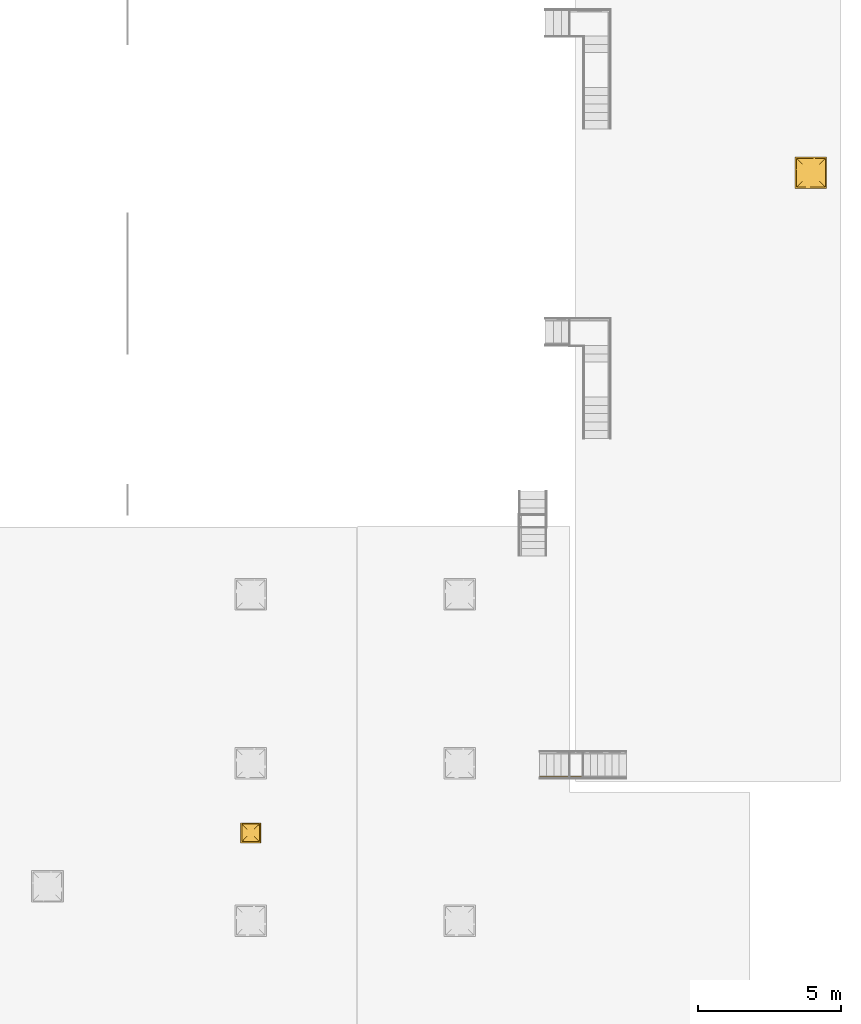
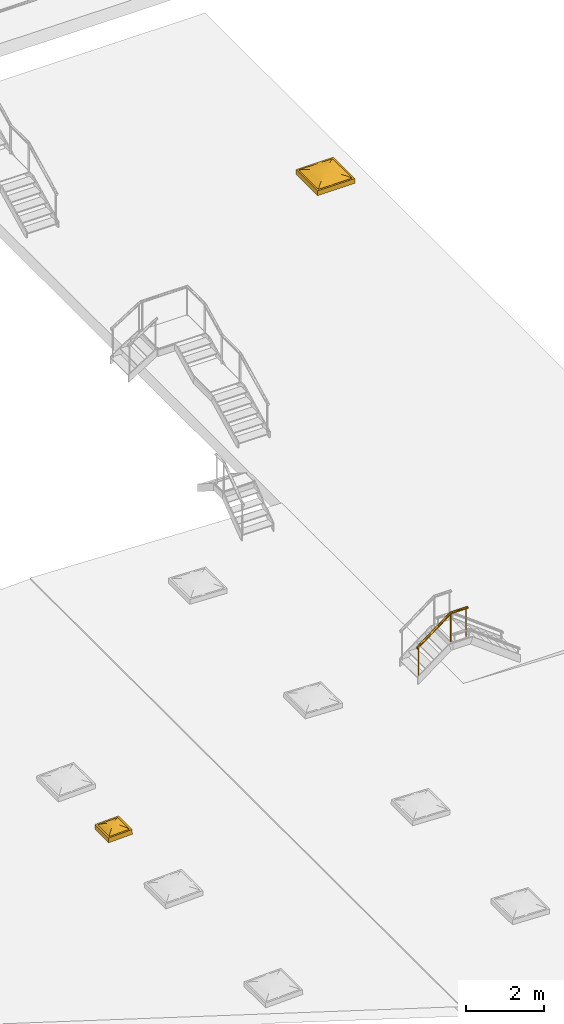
# One storey, part 6 of 15: 2 windows, 1 railing, 1 element without a shape of its own.
"""IFC2X3 building model written with IfcOpenShell, lengths in centimetres."""

from ifc_helpers import new_model, entity, si_unit, converted_unit, derived_unit, direction, frame, origin, place, context, subcontext, project, spatial, faceted_brep, source, transform, mapped, material, material_list, type_object, type_shapes, element, aggregate, save


model = new_model("IFC2X3")

# Units and contexts
model_context = context("Model", 3, precision=0.001, world=origin(), true_north=direction((6.12303176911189e-17, 1.0)))
body_context = subcontext(model_context, "Body", "Model", "MODEL_VIEW")
ifc_project = project(units=[si_unit("LENGTHUNIT", "METRE", prefix="CENTI"), si_unit("AREAUNIT", "SQUARE_METRE"), si_unit("VOLUMEUNIT", "CUBIC_METRE"), converted_unit("PLANEANGLEUNIT", "DEGREE", entity("IfcRatioMeasure", 0.0174532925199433), si_unit("PLANEANGLEUNIT", "RADIAN"), dimensions=[0, 0, 0, 0, 0, 0, 0]), si_unit("MASSUNIT", "GRAM", prefix="KILO"), si_unit("TIMEUNIT", "SECOND"), si_unit("FREQUENCYUNIT", "HERTZ"), si_unit("THERMODYNAMICTEMPERATUREUNIT", "DEGREE_CELSIUS"), derived_unit("THERMALTRANSMITTANCEUNIT", [(si_unit("MASSUNIT", "GRAM", prefix="KILO"), 1), (si_unit("THERMODYNAMICTEMPERATUREUNIT", "KELVIN"), -1), (si_unit("TIMEUNIT", "SECOND"), -3)]), derived_unit("VOLUMETRICFLOWRATEUNIT", [(si_unit("LENGTHUNIT", "METRE"), 3), (si_unit("TIMEUNIT", "SECOND"), -1)]), si_unit("ELECTRICCURRENTUNIT", "AMPERE"), si_unit("ELECTRICVOLTAGEUNIT", "VOLT"), si_unit("POWERUNIT", "WATT"), si_unit("FORCEUNIT", "NEWTON", prefix="KILO"), si_unit("ILLUMINANCEUNIT", "LUX"), si_unit("LUMINOUSFLUXUNIT", "LUMEN"), si_unit("LUMINOUSINTENSITYUNIT", "CANDELA"), derived_unit("USERDEFINED", [(si_unit("MASSUNIT", "GRAM", prefix="KILO"), -1), (si_unit("LENGTHUNIT", "METRE"), -2), (si_unit("TIMEUNIT", "SECOND"), 3), (si_unit("LUMINOUSFLUXUNIT", "LUMEN"), 1)]), derived_unit("LINEARVELOCITYUNIT", [(si_unit("LENGTHUNIT", "METRE"), 1), (si_unit("TIMEUNIT", "SECOND"), -1)]), si_unit("PRESSUREUNIT", "PASCAL"), derived_unit("USERDEFINED", [(si_unit("LENGTHUNIT", "METRE"), -2), (si_unit("MASSUNIT", "GRAM", prefix="KILO"), 1), (si_unit("TIMEUNIT", "SECOND"), -2)])], contexts=[model_context])

# Site, building, storey
site_placement = place(None, frame((8.62739174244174, -249.285249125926, 0.0)))
site = spatial("IfcSite", under=ifc_project, at=site_placement, Name="Default", CompositionType="ELEMENT")
building_placement = place(site_placement, origin())
building = spatial("IfcBuilding", under=site, at=building_placement, CompositionType="ELEMENT")
storey_placement = place(building_placement, frame((0.0, 0.0, 801.0)))
storey = spatial("IfcBuildingStorey", under=building, at=storey_placement, Name="Acrotère E3", CompositionType="ELEMENT", Elevation=801.0)

# Windows
ifc_material_1 = material(Name="Verre")
ifc_material_2 = material(Name="Métal - Aluminium")
ifc_material_list_1 = material_list([ifc_material_1, ifc_material_2])
ifc_material_list_2 = material_list([ifc_material_1, ifc_material_2])
window_style_1 = type_object("IfcWindowStyle", Name="1000mm x 1000mm", ConstructionType="NOTDEFINED", OperationType="NOTDEFINED", ParameterTakesPrecedence=False, Sizeable=False, material=ifc_material_list_2)
shared_shape_1 = source(origin(), body_context, "Body", "Brep", [
    faceted_brep([(-8.01000000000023, -25.9900000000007, 431.759999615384), (-7.99000000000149, -25.9900000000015, 431.759999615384), (2.26188191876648, -15.7381180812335, 431.354343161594), (-18.2618819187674, -15.7381180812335, 431.354343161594), (12.4498452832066, -5.55015471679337, 430.141477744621), (-28.4498452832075, -5.55015471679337, 430.141477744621), (22.5104319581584, 4.5104319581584, 428.128957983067), (-38.5104319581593, 4.5104319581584, 428.128957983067), (4.94759751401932, 24.0, 421.759999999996), (-48.3809772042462, 14.3809772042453, 425.329319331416), (32.3809772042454, 14.3809772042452, 425.329319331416), (42.0, 24.0, 421.759999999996), (-58.0, 24.0, 421.759999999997), (-58.0, 24.0, 421.193095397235), (42.0, 24.0, 421.193095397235), (-20.820830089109, 24.0, 421.193095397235), (-48.3842611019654, 14.3842611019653, 424.777786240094), (-38.5148298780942, 4.51482987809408, 427.589684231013), (22.5148298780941, 4.51482987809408, 427.589684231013), (32.3842611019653, 14.3842611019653, 424.777786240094), (12.4537057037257, -5.5462942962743, 429.611125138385), (-28.4537057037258, -5.5462942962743, 429.611125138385), (-18.2640921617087, -15.7359078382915, 430.829410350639), (2.26409216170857, -15.7359078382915, 430.829410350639), (-8.01000000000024, -25.9899999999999, 431.236886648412), (-7.98999999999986, -25.9899999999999, 431.236886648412), (-7.99000000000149, -26.0099999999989, 431.759999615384), (2.26188191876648, -36.2618819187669, 431.354343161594), (12.4498452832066, -46.4498452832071, 430.141477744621), (22.5104319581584, -56.5104319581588, 428.128957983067), (42.0, -38.9475975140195, 421.759999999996), (32.3809772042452, -66.3809772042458, 425.329319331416), (42.0, -76.0, 421.759999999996), (42.0, -76.0, 421.193095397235), (42.0, -13.1791699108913, 421.193095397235), (22.5148298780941, -56.5148298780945, 427.589684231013), (32.3842611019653, -66.3842611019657, 424.777786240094), (12.4537057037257, -46.4537057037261, 429.611125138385), (2.26409216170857, -36.264092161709, 430.829410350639), (-7.98999999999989, -26.0100000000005, 431.236886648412), (-8.00999999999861, -26.0099999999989, 431.759999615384), (-18.2618819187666, -36.2618819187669, 431.354343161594), (-28.4498452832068, -46.449845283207, 430.141477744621), (-38.5104319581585, -56.5104319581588, 428.128957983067), (-20.9475975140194, -76.0, 421.759999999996), (-48.3809772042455, -66.3809772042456, 425.329319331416), (-58.0, -76.0, 421.759999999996), (-58.0, -76.0, 421.193095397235), (4.82083008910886, -76.0, 421.193095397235), (-38.5148298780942, -56.5148298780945, 427.589684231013), (-48.3842611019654, -66.3842611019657, 424.777786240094), (-28.4537057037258, -46.4537057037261, 429.611125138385), (-18.2640921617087, -36.264092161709, 430.829410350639), (-8.01000000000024, -26.0100000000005, 431.236886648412), (-58.0, -13.052402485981, 421.759999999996), (-58.0, -38.8208300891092, 421.193095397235)], [[[0, 1, 2, 3]], [[3, 2, 4, 5]], [[4, 6, 7, 5]], [[8, 9, 7]], [[6, 10, 8]], [[10, 11, 8]], [[9, 8, 12]], [[7, 6, 8]], [[13, 12, 8, 11, 14, 15]], [[16, 15, 17]], [[18, 17, 15]], [[13, 15, 16]], [[15, 14, 19]], [[19, 18, 15]], [[18, 20, 21, 17]], [[22, 21, 20, 23]], [[24, 22, 23, 25]], [[0, 24, 25, 1]], [[1, 26, 27, 2]], [[2, 27, 28, 4]], [[28, 29, 6, 4]], [[30, 10, 6]], [[29, 31, 30]], [[31, 32, 30]], [[10, 30, 11]], [[6, 29, 30]], [[11, 30, 32, 33, 34, 14]], [[19, 34, 18]], [[35, 18, 34]], [[14, 34, 19]], [[34, 33, 36]], [[36, 35, 34]], [[35, 37, 20, 18]], [[23, 20, 37, 38]], [[25, 23, 38, 39]], [[1, 25, 39, 26]], [[26, 40, 41, 27]], [[27, 41, 42, 28]], [[42, 43, 29, 28]], [[44, 31, 29]], [[43, 45, 44]], [[45, 46, 44]], [[31, 44, 32]], [[29, 43, 44]], [[32, 44, 46, 47, 48, 33]], [[36, 48, 35]], [[49, 35, 48]], [[33, 48, 36]], [[48, 47, 50]], [[50, 49, 48]], [[49, 51, 37, 35]], [[38, 37, 51, 52]], [[39, 38, 52, 53]], [[26, 39, 53, 40]], [[40, 0, 3, 41]], [[41, 3, 5, 42]], [[5, 7, 43, 42]], [[54, 45, 43]], [[7, 9, 54]], [[9, 12, 54]], [[45, 54, 46]], [[43, 7, 54]], [[47, 46, 54, 12, 13, 55]], [[50, 55, 49]], [[17, 49, 55]], [[47, 55, 50]], [[55, 13, 16]], [[16, 17, 55]], [[17, 21, 51, 49]], [[52, 51, 21, 22]], [[53, 52, 22, 24]], [[40, 53, 24, 0]]]),
    faceted_brep([(-63.0, -81.0, 421.76), (-63.0, -81.0, 406.76), (47.0, -81.0, 406.76), (47.0, -81.0, 421.76), (-58.0, -76.0, 421.76), (42.0, -76.0, 421.76), (-58.0, -76.0, 406.76), (42.0, -76.0, 406.76), (47.0, 29.0, 406.76), (47.0, 29.0, 421.76), (42.0, 24.0, 421.76), (42.0, 24.0, 406.76), (-63.0, 29.0, 406.76), (-63.0, 29.0, 421.76), (-58.0, 24.0, 421.76), (-58.0, 24.0, 406.76)], [[[0, 1, 2, 3]], [[4, 0, 3, 5]], [[6, 4, 5, 7]], [[1, 6, 7, 2]], [[3, 2, 8, 9]], [[5, 3, 9, 10]], [[7, 5, 10, 11]], [[2, 7, 11, 8]], [[9, 8, 12, 13]], [[10, 9, 13, 14]], [[11, 10, 14, 15]], [[8, 11, 15, 12]], [[13, 12, 1, 0]], [[14, 13, 0, 4]], [[15, 14, 4, 6]], [[12, 15, 6, 1]]]),
])
type_shapes(window_style_1, [shared_shape_1])
window_1_placement = place(building_placement, frame((3883.90482776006, 4806.48020813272, 317.24)))
element("IfcWindow", 1, at=window_1_placement, inside=storey, type_object=window_style_1, material=ifc_material_list_1, Name="Skydome:1000mm x 1000mm", ObjectType="1000mm x 1000mm", OverallHeight=1062.58505615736, OverallWidth=124.715041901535, context=body_context, shape_type="MappedRepresentation", body=[
    mapped(shared_shape_1, transform((0.0, 0.0, 0.0), scale=1.0)),
])
ifc_material_list_3 = material_list([ifc_material_1, ifc_material_2])
ifc_material_list_4 = material_list([ifc_material_1, ifc_material_2])
window_style_2 = type_object("IfcWindowStyle", Name="600mm x 600mm", ConstructionType="NOTDEFINED", OperationType="NOTDEFINED", ParameterTakesPrecedence=False, Sizeable=False, material=ifc_material_list_4)
shared_shape_2 = source(origin(), body_context, "Body", "Brep", [
    faceted_brep([(-8.01000000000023, -25.9900000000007, 410.759999), (-7.99000000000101, -25.9900000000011, 410.759999), (-1.57480510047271, -19.5748051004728, 410.345450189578), (-14.4251948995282, -19.5748051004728, 410.345450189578), (4.73417727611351, -13.2658227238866, 409.111222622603), (-20.7341772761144, -13.2658227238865, 409.111222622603), (10.8326556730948, -7.16734432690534, 407.07771885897), (-26.8326556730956, -7.16734432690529, 407.07771885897), (16.6198183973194, -1.38018160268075, 404.278553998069), (-32.6198183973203, -1.38018160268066, 404.278553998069), (22.0, 4.0, 400.759999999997), (-38.0, 4.0, 400.759999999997), (-38.0, 4.0, 400.193095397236), (22.0, 4.0, 400.193095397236), (-32.6335686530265, -1.36643134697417, 403.750188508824), (16.6335686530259, -1.36643134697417, 403.750188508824), (-26.8512060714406, -7.14879392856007, 406.581403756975), (10.85120607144, -7.14879392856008, 406.581403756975), (4.75054590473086, -13.2494540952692, 408.638936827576), (-20.7505459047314, -13.2494540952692, 408.638936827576), (-14.434596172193, -19.5654038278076, 409.888046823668), (-1.56540382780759, -19.5654038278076, 409.888046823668), (-8.01000000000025, -25.9900000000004, 410.307642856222), (-7.99000000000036, -25.9900000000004, 410.307642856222), (-7.99000000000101, -26.0099999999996, 410.759999), (-1.57480510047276, -32.4251948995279, 410.345450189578), (4.73417727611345, -38.7341772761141, 409.111222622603), (10.8326556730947, -44.8326556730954, 407.07771885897), (16.6198183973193, -50.61981839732, 404.278553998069), (22.0, -56.0, 400.759999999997), (22.0, -56.0, 400.193095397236), (16.6335686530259, -50.6335686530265, 403.750188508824), (10.85120607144, -44.8512060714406, 406.581403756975), (4.75054590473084, -38.7505459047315, 408.638936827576), (-1.5654038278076, -32.4345961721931, 409.888046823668), (-7.99000000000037, -26.0100000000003, 410.307642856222), (-8.00999999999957, -26.0099999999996, 410.759999), (-14.4251948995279, -32.4251948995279, 410.345450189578), (-20.7341772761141, -38.7341772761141, 409.111222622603), (-26.8326556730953, -44.8326556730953, 407.07771885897), (-32.61981839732, -50.61981839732, 404.278553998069), (-38.0, -56.0, 400.759999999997), (-38.0, -56.0, 400.193095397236), (-32.6335686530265, -50.6335686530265, 403.750188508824), (-26.8512060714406, -44.8512060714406, 406.581403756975), (-20.7505459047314, -38.7505459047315, 408.638936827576), (-14.434596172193, -32.4345961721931, 409.888046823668), (-8.01000000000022, -26.0100000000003, 410.307642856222)], [[[0, 1, 2, 3]], [[3, 2, 4, 5]], [[4, 6, 7, 5]], [[7, 6, 8, 9]], [[9, 8, 10, 11]], [[12, 11, 10, 13]], [[14, 12, 13, 15]], [[16, 14, 15, 17]], [[17, 18, 19, 16]], [[20, 19, 18, 21]], [[22, 20, 21, 23]], [[0, 22, 23, 1]], [[1, 24, 25, 2]], [[2, 25, 26, 4]], [[26, 27, 6, 4]], [[6, 27, 28, 8]], [[8, 28, 29, 10]], [[13, 10, 29, 30]], [[15, 13, 30, 31]], [[17, 15, 31, 32]], [[32, 33, 18, 17]], [[21, 18, 33, 34]], [[23, 21, 34, 35]], [[1, 23, 35, 24]], [[24, 36, 37, 25]], [[25, 37, 38, 26]], [[38, 39, 27, 26]], [[27, 39, 40, 28]], [[28, 40, 41, 29]], [[30, 29, 41, 42]], [[31, 30, 42, 43]], [[32, 31, 43, 44]], [[44, 45, 33, 32]], [[34, 33, 45, 46]], [[35, 34, 46, 47]], [[24, 35, 47, 36]], [[36, 0, 3, 37]], [[37, 3, 5, 38]], [[5, 7, 39, 38]], [[39, 7, 9, 40]], [[40, 9, 11, 41]], [[42, 41, 11, 12]], [[43, 42, 12, 14]], [[44, 43, 14, 16]], [[16, 19, 45, 44]], [[46, 45, 19, 20]], [[47, 46, 20, 22]], [[36, 47, 22, 0]]]),
    faceted_brep([(-43.0, -61.0, 400.76), (-43.0, -61.0, 385.76), (27.0, -61.0, 385.76), (27.0, -61.0, 400.76), (-38.0, -56.0, 400.76), (22.0, -56.0, 400.76), (-38.0, -56.0, 385.76), (22.0, -56.0, 385.76), (27.0, 9.0, 385.76), (27.0, 9.0, 400.76), (22.0, 4.0, 400.76), (22.0, 4.0, 385.76), (-43.0, 9.0, 385.76), (-43.0, 9.0, 400.76), (-38.0, 4.0, 400.76), (-38.0, 4.0, 385.76)], [[[0, 1, 2, 3]], [[4, 0, 3, 5]], [[6, 4, 5, 7]], [[1, 6, 7, 2]], [[3, 2, 8, 9]], [[5, 3, 9, 10]], [[7, 5, 10, 11]], [[2, 7, 11, 8]], [[9, 8, 12, 13]], [[10, 9, 13, 14]], [[11, 10, 14, 15]], [[8, 11, 15, 12]], [[13, 12, 1, 0]], [[14, 13, 0, 4]], [[15, 14, 4, 6]], [[12, 15, 6, 1]]]),
])
type_shapes(window_style_2, [shared_shape_2])
window_2_placement = place(storey_placement, frame((1940.85277218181, 2501.35806445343, -418.08978499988), z_axis=(-0.0348994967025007, 0.0, 0.999390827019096), x_axis=(0.999390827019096, 0.0, 0.0348994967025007)))
element("IfcWindow", 2, at=window_2_placement, inside=storey, type_object=window_style_2, material=ifc_material_list_3, Name="Skydome:600mm x 600mm", ObjectType="600mm x 600mm", OverallHeight=1062.58505615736, OverallWidth=104.715041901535, context=body_context, shape_type="MappedRepresentation", body=[
    mapped(shared_shape_2, transform((0.0, 0.0, 0.0), scale=1.0)),
])

# Stair, railing
stair_placement = place(building_placement, frame((0.0, 0.0, 801.0)))
stair = element("IfcStair", 3, at=stair_placement, inside=storey, Name="Escalier assemblé:Escalier", ShapeType="NOTDEFINED")
ifc_material_3 = material(Name="Peinture - Grise")
ifc_material_4 = material(Name="Pin (1)")
ifc_material_list_5 = material_list([ifc_material_3, ifc_material_4])
railing_placement = place(stair_placement, frame((2927.90482782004, 2666.36068084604, -20.8571428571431)))
railing = element("IfcRailing", 4, at=railing_placement, material=ifc_material_list_5, Name="Garde-corps:Type Bateau", ObjectType="Garde-corps:Type Bateau", PredefinedType="NOTDEFINED", context=body_context, shape_type="Brep", body=[
    faceted_brep([(99.3999999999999, 6.15952722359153, 161.841796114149), (99.3999999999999, 2.15952722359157, 161.841796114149), (100.6, 2.15952722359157, 161.841796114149), (100.6, 6.15952722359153, 161.841796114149), (99.3999999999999, 6.15952722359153, 74.8571428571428), (100.6, 6.15952722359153, 74.8571428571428), (100.6, 2.15952722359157, 74.8571428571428), (99.3999999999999, 2.15952722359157, 74.8571428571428)], [[[0, 1, 2, 3]], [[4, 5, 6, 7]], [[3, 5, 4, 0]], [[2, 6, 5, 3]], [[1, 7, 6, 2]], [[0, 4, 7, 1]]]),
    faceted_brep([(4.39999999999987, 6.15952722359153, 89.9762567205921), (4.39999999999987, 2.15952722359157, 89.9762567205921), (5.60000000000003, 2.15952722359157, 89.9762567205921), (5.60000000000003, 6.15952722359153, 89.9762567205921), (4.39999999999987, 6.15952722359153, 0.0), (5.60000000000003, 6.15952722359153, 0.0), (5.60000000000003, 2.15952722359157, 0.0), (4.39999999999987, 2.15952722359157, 0.0)], [[[0, 1, 2, 3]], [[4, 5, 6, 7]], [[3, 5, 4, 0]], [[2, 6, 5, 3]], [[1, 7, 6, 2]], [[0, 4, 7, 1]]]),
    faceted_brep([(144.399999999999, 6.15952722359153, 161.841796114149), (144.399999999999, 2.15952722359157, 161.841796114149), (145.599999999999, 2.15952722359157, 161.841796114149), (145.599999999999, 6.15952722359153, 161.841796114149), (144.399999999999, 6.15952722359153, 74.8571428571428), (145.599999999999, 6.15952722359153, 74.8571428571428), (145.599999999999, 2.15952722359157, 74.8571428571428), (144.399999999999, 2.15952722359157, 74.8571428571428)], [[[0, 1, 2, 3]], [[4, 5, 6, 7]], [[3, 5, 4, 0]], [[2, 6, 5, 3]], [[1, 7, 6, 2]], [[0, 4, 7, 1]]]),
    faceted_brep([(150.0, 0.821266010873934, 163.742425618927), (150.0, 1.48300479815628, 162.627708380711), (150.0, 3.03032293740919, 162.250642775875), (150.0, 4.5776410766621, 161.873577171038), (150.0, 5.98661813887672, 162.483682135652), (150.0, 7.39559520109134, 163.093787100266), (150.0, 7.77756121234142, 163.975464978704), (150.0, 8.1595272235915, 164.857142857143), (150.0, 7.75798178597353, 165.533557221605), (150.0, 7.35643634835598, 166.209971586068), (150.0, 6.83604964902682, 167.086577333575), (150.0, 5.28873150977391, 167.463642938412), (150.0, 3.741413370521, 167.840708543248), (150.0, 2.33243630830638, 167.230603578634), (150.0, 0.923459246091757, 166.620498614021), (150.0, 0.468565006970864, 165.570483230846), (150.0, 0.15952722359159, 164.857142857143), (125.293445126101, 7.72355329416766, 163.495171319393), (100.586889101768, 7.39559520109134, 163.093787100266), (100.293444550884, 7.77756121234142, 163.975464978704), (125.496502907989, 5.39559518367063, 162.003973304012), (122.010252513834, 8.04885421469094, 164.156329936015), (100.993005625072, 4.5776410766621, 161.873577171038), (100.891476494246, 5.28212960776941, 162.178629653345), (100.78994736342, 5.98661813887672, 162.483682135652), (125.293444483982, 7.06540855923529, 162.795549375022), (100.742011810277, 1.48300479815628, 162.627708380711), (125.371005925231, 1.85580956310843, 162.404644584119), (125.371005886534, 1.03863527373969, 162.980638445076), (125.089027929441, 2.75334665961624, 162.048630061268), (125.496502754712, 3.74141336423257, 161.873577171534), (100.867508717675, 3.03032293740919, 162.250642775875), (100.459227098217, 0.978620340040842, 163.477357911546), (124.086477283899, 0.487642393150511, 163.667201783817), (125.0, 0.15952722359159, 164.857142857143), (100.229613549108, 0.569073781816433, 164.167250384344), (124.933715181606, 0.15952722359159, 164.857142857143), (100.0, 0.15952722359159, 164.857142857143), (100.371005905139, 0.821266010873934, 163.742425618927), (100.0, 8.1595272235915, 164.857142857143), (125.0, 8.1595272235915, 164.857142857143), (125.066284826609, 8.1595272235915, 164.857142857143), (126.176655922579, 6.29679496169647, 162.32129019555), (124.706555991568, 0.599897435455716, 166.225566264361), (124.70655537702, 1.27025490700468, 166.931825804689), (99.6289940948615, 7.49778843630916, 165.971860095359), (124.628994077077, 7.2872075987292, 166.727278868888), (125.776199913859, 7.83127439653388, 166.047322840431), (99.4131108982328, 0.923459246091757, 166.62049861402), (99.7065554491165, 0.541493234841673, 165.738820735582), (124.628994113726, 6.46560015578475, 167.308395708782), (124.566245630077, 5.54450591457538, 167.67157559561), (126.635920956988, 0.2712620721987, 165.561262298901), (124.503497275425, 2.92827572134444, 167.711483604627), (99.2100526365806, 2.33243630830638, 167.230603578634), (125.861376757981, 2.03489134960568, 167.39895940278), (99.2579881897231, 6.83604964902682, 167.086577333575), (99.1324912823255, 5.28873150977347, 167.463642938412), (124.503497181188, 3.96655896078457, 167.853649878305), (99.0069943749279, 3.74141337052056, 167.840708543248), (99.8558766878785, 7.90246396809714, 165.290173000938), (0.0, 1.48300479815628, 92.7848833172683), (0.0, 3.03032293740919, 93.2558923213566), (0.0, 4.5776410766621, 93.7269013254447), (0.0, 5.98661813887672, 92.9647927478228), (0.0, 7.39559520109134, 92.202684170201), (0.0, 7.77756121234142, 91.1013420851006), (0.0, 8.1595272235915, 90.0), (0.0, 7.49778843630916, 88.6075583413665), (0.0, 6.83604964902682, 87.2151166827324), (0.0, 5.28873150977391, 86.7441076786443), (0.0, 3.741413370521, 86.273098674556), (0.0, 2.33243630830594, 87.0352072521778), (0.0, 0.923459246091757, 87.7973158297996), (0.0, 0.551317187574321, 88.8703320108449), (0.0, 0.15952722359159, 90.0), (0.0, 0.821266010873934, 91.3924416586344), (56.6877854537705, 6.7563769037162, 129.584534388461), (45.3443179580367, 7.49142179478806, 121.869960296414), (48.7222917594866, 1.24334588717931, 123.907129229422), (46.419241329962, 0.606559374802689, 123.026638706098), (45.1453756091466, 0.264146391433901, 122.943075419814), (50.5041745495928, 5.78832041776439, 124.383305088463), (47.2401512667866, 3.16970159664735, 121.731746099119), (48.1982352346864, 4.27436432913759, 122.33393634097), (59.2812223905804, 2.158634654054, 131.131342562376), (63.4349766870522, 0.15952722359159, 137.485611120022), (36.5650202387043, 0.15952722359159, 117.37152943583), (48.3470474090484, 7.95309294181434, 125.002900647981), (36.5650202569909, 8.1595272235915, 117.371529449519), (63.434976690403, 8.1595272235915, 137.48561112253), (52.8907852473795, 0.55255604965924, 131.212443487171), (48.6441392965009, 1.15140927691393, 128.883654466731), (45.2983940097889, 1.98023034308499, 127.051492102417), (56.854131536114, 2.97123288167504, 136.137629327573), (48.5331841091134, 4.11172055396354, 130.077717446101), (55.3769484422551, 8.04912244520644, 132.327970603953), (45.2342525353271, 5.19760091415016, 127.480105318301), (48.6594975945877, 7.10018729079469, 128.965448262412), (45.5039919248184, 7.72720560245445, 125.757553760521), (56.8069166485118, 6.20506295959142, 135.74439766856)], [[[0, 1, 2, 3, 4, 5, 6, 7, 8, 9, 10, 11, 12, 13, 14, 15, 16]], [[17, 18, 19]], [[4, 3, 20]], [[17, 19, 21]], [[20, 22, 23, 24]], [[5, 25, 17]], [[26, 27, 28]], [[2, 29, 30]], [[27, 26, 31]], [[28, 32, 26]], [[5, 4, 25]], [[30, 20, 3]], [[27, 1, 28]], [[32, 28, 33]], [[0, 16, 33]], [[28, 1, 0]], [[2, 30, 3]], [[1, 27, 2]], [[33, 28, 0]], [[33, 16, 34]], [[35, 34, 36, 37]], [[33, 35, 38, 32]], [[6, 5, 17]], [[21, 39, 40, 41, 7]], [[7, 6, 21]], [[18, 17, 25]], [[19, 39, 21]], [[25, 24, 18]], [[42, 20, 24]], [[42, 4, 20]], [[22, 20, 30]], [[30, 31, 22]], [[31, 30, 29]], [[33, 34, 35]], [[17, 21, 6]], [[42, 25, 4]], [[25, 42, 24]], [[29, 27, 31]], [[27, 29, 2]], [[43, 14, 44]], [[45, 46, 47]], [[48, 49, 43]], [[11, 50, 51]], [[43, 49, 52]], [[47, 46, 9]], [[53, 54, 55]], [[50, 11, 10]], [[43, 52, 15]], [[56, 57, 50]], [[12, 11, 58]], [[10, 46, 50]], [[54, 53, 59]], [[53, 55, 13]], [[12, 58, 53]], [[56, 50, 46]], [[46, 45, 56]], [[9, 46, 10]], [[15, 52, 16]], [[40, 39, 47]], [[47, 8, 40]], [[47, 9, 8]], [[37, 52, 49]], [[52, 37, 36, 34, 16]], [[48, 43, 44]], [[14, 43, 15]], [[48, 44, 54]], [[44, 14, 13]], [[59, 53, 58]], [[12, 53, 13]], [[58, 57, 59]], [[51, 57, 58]], [[11, 51, 58]], [[51, 50, 57]], [[47, 39, 60, 45]], [[8, 7, 41, 40]], [[55, 44, 13]], [[44, 55, 54]], [[61, 62, 63, 64, 65, 66, 67, 68, 69, 70, 71, 72, 73, 74, 75, 76]], [[77, 78, 18]], [[79, 73, 72]], [[74, 80, 81]], [[74, 81, 75]], [[82, 24, 23]], [[81, 38, 35, 37]], [[31, 83, 84]], [[31, 85, 83]], [[38, 80, 79]], [[79, 80, 73]], [[81, 37, 86, 87, 75]], [[79, 26, 32, 38]], [[83, 85, 72]], [[73, 80, 74]], [[31, 26, 85]], [[79, 85, 26]], [[22, 31, 84]], [[81, 80, 38]], [[85, 79, 72]], [[24, 82, 77]], [[71, 83, 72]], [[23, 22, 84]], [[84, 83, 71]], [[77, 82, 69]], [[84, 71, 70]], [[84, 70, 82]], [[84, 82, 23]], [[82, 70, 69]], [[77, 18, 24]], [[88, 19, 78]], [[19, 88, 39]], [[69, 78, 77]], [[19, 18, 78]], [[68, 78, 69]], [[67, 88, 68]], [[78, 68, 88]], [[88, 67, 89, 90, 39]], [[48, 91, 49]], [[92, 93, 61]], [[93, 94, 62]], [[62, 94, 95]], [[60, 90, 96]], [[63, 95, 97]], [[98, 56, 45]], [[98, 99, 65]], [[45, 96, 99]], [[76, 75, 87]], [[98, 45, 99]], [[66, 65, 99]], [[96, 90, 89, 67]], [[100, 98, 64]], [[100, 64, 97]], [[92, 54, 93]], [[56, 98, 100]], [[60, 39, 90]], [[97, 95, 57]], [[98, 65, 64]], [[100, 57, 56]], [[57, 100, 97]], [[59, 57, 95]], [[63, 97, 64]], [[59, 95, 94]], [[95, 63, 62]], [[94, 54, 59]], [[54, 94, 93]], [[48, 54, 92]], [[61, 93, 62]], [[49, 87, 86, 37]], [[92, 61, 76]], [[76, 91, 92]], [[96, 67, 66]], [[91, 76, 87]], [[60, 96, 45]], [[99, 96, 66]], [[92, 91, 48]], [[49, 91, 87]]]),
])
aggregate(stair, [railing])

save(model, "model.ifc")
